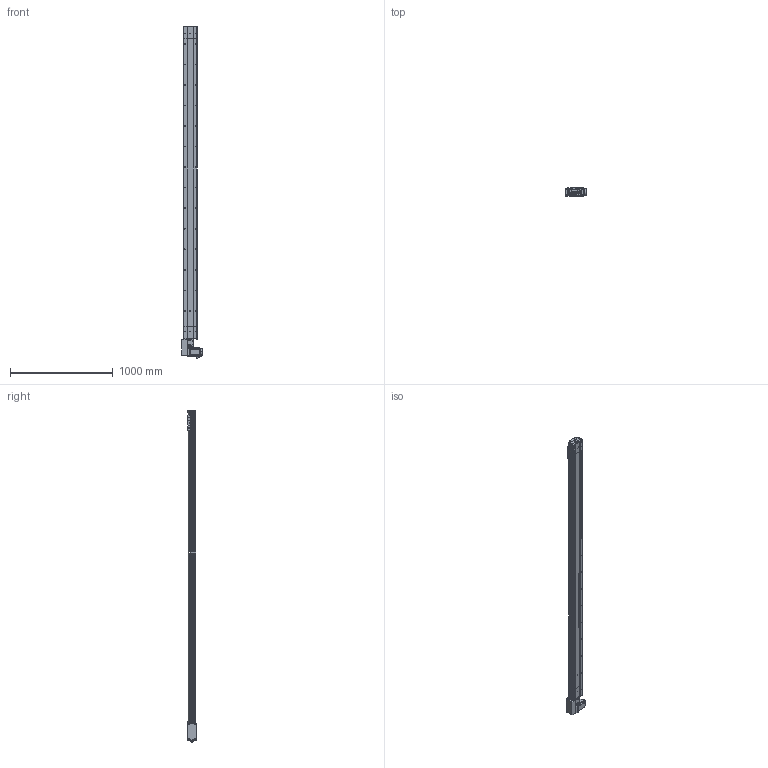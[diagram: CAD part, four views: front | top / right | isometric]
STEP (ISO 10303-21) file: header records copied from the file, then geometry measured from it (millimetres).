
FILE_DESCRIPTION (( 'STEP AP214' ), '1' );
FILE_NAME ('D14 TBH RH S2800.STEP', '2010-06-29T14:39:48', ( 'Conseil Régional Haute-Normandie' ), ( 'Conseil Régional Haute-Normandie' ), 'SwSTEP 2.0', 'SolidWorks 2010', '' );
FILE_SCHEMA (( 'AUTOMOTIVE_DESIGN' ));
Length unit declared in the file: millimetre
Products named in the file (39): renvoi RH_Default; vis M5 L5_Default; Vis M5 L16-2_Default; Chariot D14; Conecteur2_Default; Tail D14B_Default; vis M5 L12_Default; Conecteur_Default; chariot D14B_Default; Plaque racord D14_Default; Cache_Default; Cache arbre_Default; Cvis M5 L70_Default; guide D14; couvercle D14 course L2800_Default; Rail + couroie D14 Course 2800 ; D14 TBH RH S2800; corpl 2800_Default; D14 couroie L2800_Default; codeur 90BLDC100-640; corps 90BLDC100A-640; vis M5 L8 90°_Default; D14 TB H RH_Default; Couroie_Default; Moteur motionking 90BLDC100A-640; couvercle D14 head_Default; plaque de  bout head D14 RH_Default; corp head D14_Default; plaque de  bout tail D14_Default; couvercle D14_Default; couroie 2_Default; poulie head_Default; Arbre+rail head D14; Arbre+rail tail D14; vis M5 L16_Default; corpl tail D14_Default; poulie tail_Default; tete d''axe haut D14; avant 90BLDC100A-640
Assembly tree (68 placements, depth 4):
  D14 TBH RH S2800
    D14 couroie L2800_Default
      couvercle D14 course L2800_Default
      corpl 2800_Default
      Rail + couroie D14 Course 2800 
    D14 TB H RH_Default
      corp head D14_Default
      Cvis M5 L70_Default  x4
      Cache arbre_Default
      Cache_Default  x2
      Vis M5 L16-2_Default  x4
      vis M5 L12_Default  x12
      couroie 2_Default
      Plaque racord D14_Default
      Arbre+rail head D14
      Moteur motionking 90BLDC100A-640
        Conecteur_Default
        codeur 90BLDC100-640
        avant 90BLDC100A-640
        corps 90BLDC100A-640
        Conecteur2_Default
      plaque de  bout head D14 RH_Default
      vis M5 L5_Default  x2
      renvoi RH_Default
      poulie head_Default
      couvercle D14 head_Default
    chariot D14B_Default
      Chariot D14
      guide D14  x2
      vis M5 L12_Default  x4
    Tail D14B_Default
      plaque de  bout tail D14_Default
      vis M5 L12_Default  x4
      Couroie_Default
      poulie tail_Default
      vis M5 L8 90°_Default  x2
      couvercle D14_Default
      Arbre+rail tail D14
      tete d''axe haut D14
      corpl tail D14_Default
      vis M5 L16_Default  x2
Bounding box: 207.2 x 85.9 x 3232.45 mm (x, y, z)
Volume: 11553718.8 mm3; surface area: 4208474.4 mm2
Topology: 92 solids, 92 shells, 2757 faces, 6719 edges, 4338 vertices
Faces by surface type: plane 1621, cylinder 823, bspline 136, torus 89, cone 84, sphere 4
Entity records: 82916 total; most frequent: CARTESIAN_POINT 24153, ORIENTED_EDGE 10298, DIRECTION 10232, EDGE_CURVE 5149, AXIS2_PLACEMENT_3D 3431, VERTEX_POINT 3388, VECTOR 3370, LINE 3370
